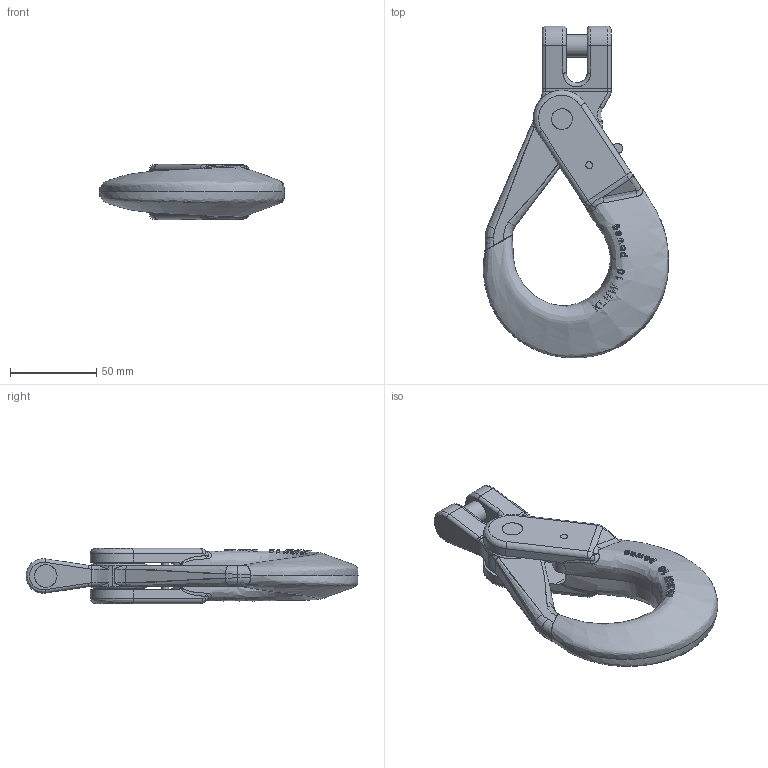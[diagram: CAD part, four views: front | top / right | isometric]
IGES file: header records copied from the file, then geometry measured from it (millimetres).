
Global section: file name: L:\users\SC\3D Kundenmodelle\UG Zg der Ableitung G100\KLHW Kundenmodell\KLHW 10 Kundenmodell\pewag_KLHW_10.igs; native system: NX V4.0; preprocessor: UGS NX IGES V4.0; date: 20100204.113146; units: millimetre
Bounding box: 107.37 x 192.52 x 32 mm (x, y, z)
Surface area: 45805.2 mm2 (no closed solid volume)
Topology: 0 solids, 0 shells, 345 faces, 2212 edges, 2199 vertices
Faces by surface type: bspline 334, offset 11
